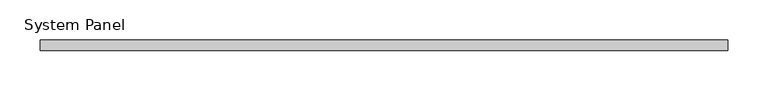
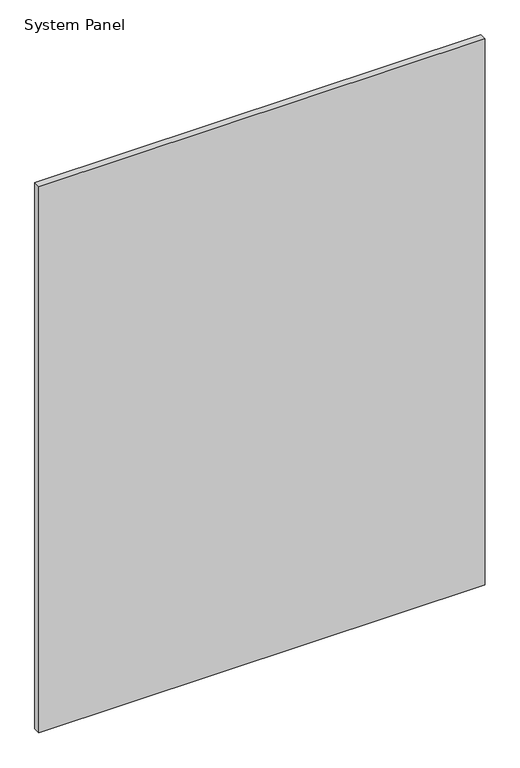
"""IFC4 building model written with IfcOpenShell, lengths in millimetres: plate geometry, System Panel : CR-BARANDA."""

from ifc_helpers import new_model, si_unit, origin, origin_with_axes, place, context, project, spatial, polyline, outline, extrude, source, transform, mapped, element, save


def system_panel_94a1ebf7(model_context):
    return source(origin(), model_context, "Body", "SweptSolid", [
        extrude(outline(polyline([(424.9999998, -6.25), (-424.9999998, -6.25), (-424.9999998, 6.25), (424.9999998, 6.25), (424.9999998, -6.25)])), origin_with_axes(), (0.0, 0.0, 1.0), 1100.0),
    ])


if __name__ == "__main__":
    model = new_model("IFC4")
    model_context = context("Model", 3, world=origin())
    ifc_project = project(units=[si_unit("LENGTHUNIT", "METRE", prefix="MILLI")], contexts=[model_context])
    site = spatial("IfcSite", under=ifc_project)
    building = spatial("IfcBuilding", under=site)
    placement = place(None, origin())
    system_panel_shape = system_panel_94a1ebf7(model_context)
    element("IfcPlate", 1, ObjectType="System Panel : CR-BARANDA", at=placement, inside=building, context=model_context, shape_type="MappedRepresentation", body=[
        mapped(system_panel_shape, transform((0.0, 0.0, 0.0), x_axis=(1.0, 0.0, 0.0), y_axis=(0.0, 1.0, 0.0), z_axis=(0.0, 0.0, 1.0))),
    ])
    save(model, "model.ifc")
